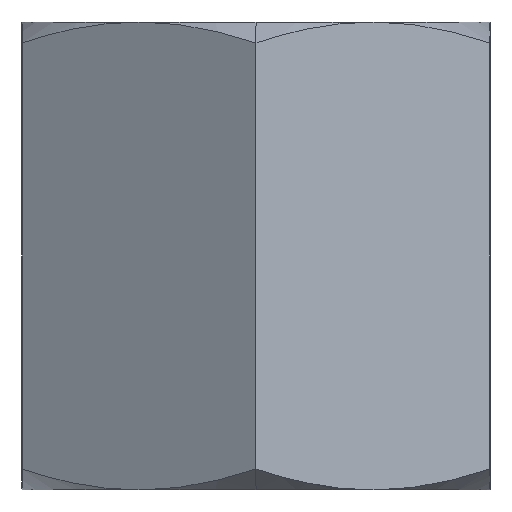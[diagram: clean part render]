
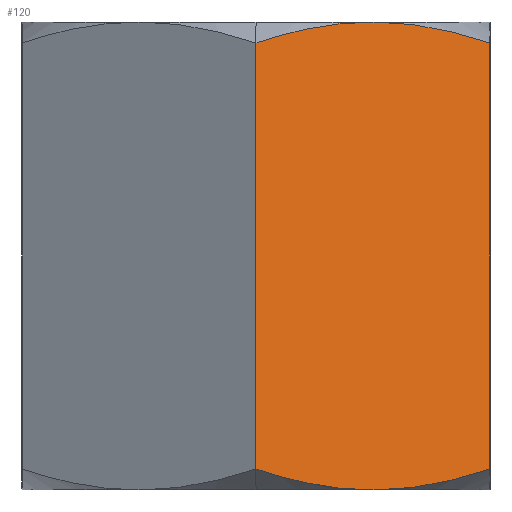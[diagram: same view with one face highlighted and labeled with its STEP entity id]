
A CAD part, left-side view. The second image highlights one B-rep face of the part: STEP entity #120.
In plain terms, the highlighted planar face has unit normal (-0.866, -0.5, 0).
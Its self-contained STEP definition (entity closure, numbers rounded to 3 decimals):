
#2 = CARTESIAN_POINT ( 'NONE',  ( -1.732, -3., -3. ) ) ;
#7 = CARTESIAN_POINT ( 'NONE',  ( -2.304, -2.009, 2.974 ) ) ;
#12 = CARTESIAN_POINT ( 'NONE',  ( -2.598, -1.5, 3. ) ) ;
#15 = ORIENTED_EDGE ( 'NONE', *, *, #866, .T. ) ;
#22 = EDGE_CURVE ( 'NONE', #261, #538, #625, .T. ) ;
#68 = CARTESIAN_POINT ( 'NONE',  ( -1.873, -2.755, 2.814 ) ) ;
#120 = ADVANCED_FACE ( 'NONE', ( #121 ), #788, .T. ) ;
#121 = FACE_OUTER_BOUND ( 'NONE', #705, .T. ) ;
#128 = VECTOR ( 'NONE', #614, 1000. ) ;
#141 = AXIS2_PLACEMENT_3D ( 'NONE', #520, #312, #320 ) ;
#164 = LINE ( 'NONE', #698, #417 ) ;
#165 = CARTESIAN_POINT ( 'NONE',  ( -1.873, -2.755, -2.814 ) ) ;
#181 = ORIENTED_EDGE ( 'NONE', *, *, #263, .F. ) ;
#199 = DIRECTION ( 'NONE',  ( 0., 0., 1. ) ) ;
#203 = VERTEX_POINT ( 'NONE', #726 ) ;
#211 = CARTESIAN_POINT ( 'NONE',  ( -3.181, -0.491, -2.896 ) ) ;
#226 = CARTESIAN_POINT ( 'NONE',  ( -2.016, -2.508, -2.881 ) ) ;
#237 = EDGE_CURVE ( 'NONE', #258, #246, #677, .T. ) ;
#246 = VERTEX_POINT ( 'NONE', #279 ) ;
#258 = VERTEX_POINT ( 'NONE', #341 ) ;
#261 = VERTEX_POINT ( 'NONE', #347 ) ;
#263 = EDGE_CURVE ( 'NONE', #538, #203, #477, .T. ) ;
#277 = CARTESIAN_POINT ( 'NONE',  ( -3.181, -0.491, 2.896 ) ) ;
#279 = CARTESIAN_POINT ( 'NONE',  ( -2.598, -1.5, -3. ) ) ;
#312 = DIRECTION ( 'NONE',  ( -0.866, -0.5, 0. ) ) ;
#320 = DIRECTION ( 'NONE',  ( 0.5, -0.866, 0. ) ) ;
#341 = CARTESIAN_POINT ( 'NONE',  ( -3.464, 0., -2.732 ) ) ;
#347 = CARTESIAN_POINT ( 'NONE',  ( -3.464, 0., 2.732 ) ) ;
#368 = CARTESIAN_POINT ( 'NONE',  ( -1.732, -3., -2.732 ) ) ;
#393 = ORIENTED_EDGE ( 'NONE', *, *, #419, .T. ) ;
#397 = ORIENTED_EDGE ( 'NONE', *, *, #237, .T. ) ;
#399 = LINE ( 'NONE', #2, #128 ) ;
#414 = CARTESIAN_POINT ( 'NONE',  ( -1.732, -3., -2.732 ) ) ;
#417 = VECTOR ( 'NONE', #199, 1000. ) ;
#419 = EDGE_CURVE ( 'NONE', #246, #644, #433, .T. ) ;
#433 = B_SPLINE_CURVE_WITH_KNOTS ( 'NONE', 3,
 ( #626, #700, #693, #226, #165, #368 ),
 .UNSPECIFIED., .F., .F.,
 ( 4, 2, 4 ),
 ( 0.002, 0.003, 0.003 ),
 .UNSPECIFIED. ) ;
#467 = ORIENTED_EDGE ( 'NONE', *, *, #22, .F. ) ;
#477 = B_SPLINE_CURVE_WITH_KNOTS ( 'NONE', 3,
 ( #12, #491, #7, #482, #68, #599 ),
 .UNSPECIFIED., .F., .F.,
 ( 4, 2, 4 ),
 ( 0.002, 0.003, 0.003 ),
 .UNSPECIFIED. ) ;
#482 = CARTESIAN_POINT ( 'NONE',  ( -2.016, -2.508, 2.881 ) ) ;
#491 = CARTESIAN_POINT ( 'NONE',  ( -2.451, -1.755, 3. ) ) ;
#520 = CARTESIAN_POINT ( 'NONE',  ( -3.464, 0., -3. ) ) ;
#538 = VERTEX_POINT ( 'NONE', #582 ) ;
#540 = CARTESIAN_POINT ( 'NONE',  ( -3.464, 0., -2.732 ) ) ;
#575 = CARTESIAN_POINT ( 'NONE',  ( -2.893, -0.989, 3. ) ) ;
#582 = CARTESIAN_POINT ( 'NONE',  ( -2.598, -1.5, 3. ) ) ;
#599 = CARTESIAN_POINT ( 'NONE',  ( -1.732, -3., 2.732 ) ) ;
#608 = CARTESIAN_POINT ( 'NONE',  ( -2.598, -1.5, -3. ) ) ;
#614 = DIRECTION ( 'NONE',  ( 0., 0., 1. ) ) ;
#625 = B_SPLINE_CURVE_WITH_KNOTS ( 'NONE', 3,
 ( #845, #277, #575, #639 ),
 .UNSPECIFIED., .F., .F.,
 ( 4, 4 ),
 ( 0., 0.002 ),
 .UNSPECIFIED. ) ;
#626 = CARTESIAN_POINT ( 'NONE',  ( -2.598, -1.5, -3. ) ) ;
#639 = CARTESIAN_POINT ( 'NONE',  ( -2.598, -1.5, 3. ) ) ;
#644 = VERTEX_POINT ( 'NONE', #414 ) ;
#677 = B_SPLINE_CURVE_WITH_KNOTS ( 'NONE', 3,
 ( #540, #211, #814, #608 ),
 .UNSPECIFIED., .F., .F.,
 ( 4, 4 ),
 ( 0., 0.002 ),
 .UNSPECIFIED. ) ;
#693 = CARTESIAN_POINT ( 'NONE',  ( -2.304, -2.009, -2.974 ) ) ;
#698 = CARTESIAN_POINT ( 'NONE',  ( -3.464, 0., -3. ) ) ;
#700 = CARTESIAN_POINT ( 'NONE',  ( -2.451, -1.755, -3. ) ) ;
#705 = EDGE_LOOP ( 'NONE', ( #467, #790, #397, #393, #15, #181 ) ) ;
#726 = CARTESIAN_POINT ( 'NONE',  ( -1.732, -3., 2.732 ) ) ;
#788 = PLANE ( 'NONE',  #141 ) ;
#790 = ORIENTED_EDGE ( 'NONE', *, *, #852, .F. ) ;
#814 = CARTESIAN_POINT ( 'NONE',  ( -2.893, -0.989, -3. ) ) ;
#845 = CARTESIAN_POINT ( 'NONE',  ( -3.464, 0., 2.732 ) ) ;
#852 = EDGE_CURVE ( 'NONE', #258, #261, #164, .T. ) ;
#866 = EDGE_CURVE ( 'NONE', #644, #203, #399, .T. ) ;
